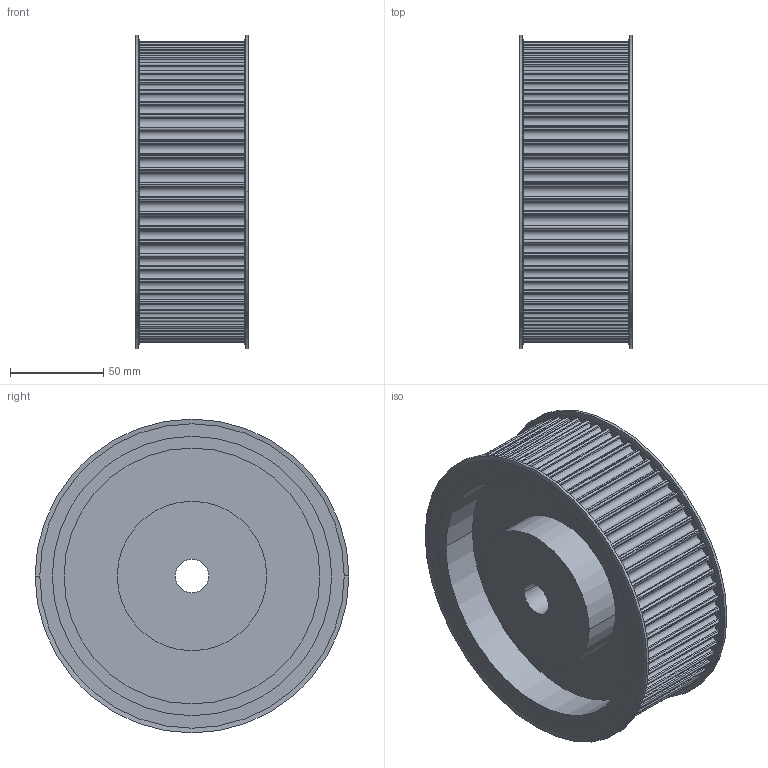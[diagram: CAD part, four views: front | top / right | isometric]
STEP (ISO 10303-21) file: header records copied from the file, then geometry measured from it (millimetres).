
FILE_DESCRIPTION( ( '' ), '1' );
FILE_NAME( 'C:/Users/Stangenbergd/Documents/CAD_Step/1/17443200.stp', '2021-10-19T10:13:09', ( '' ), ( '' ), ' ', ' ', ' ' );
FILE_SCHEMA( ( 'CONFIG_CONTROL_DESIGN' ) );
Length unit declared in the file: millimetre
Products named in the file (1): 1
Bounding box: 60.4 x 168 x 168 mm (x, y, z)
Volume: 770665.7 mm3; surface area: 124148.7 mm2
Topology: 1 solids, 1 shells, 420 faces, 1222 edges, 812 vertices
Faces by surface type: cylinder 274, plane 138, cone 8
Entity records: 14166 total; most frequent: DIRECTION 2620, CARTESIAN_POINT 2455, ORIENTED_EDGE 2444, EDGE_CURVE 1222, AXIS2_PLACEMENT_3D 977, VERTEX_POINT 812, LINE 666, VECTOR 666
